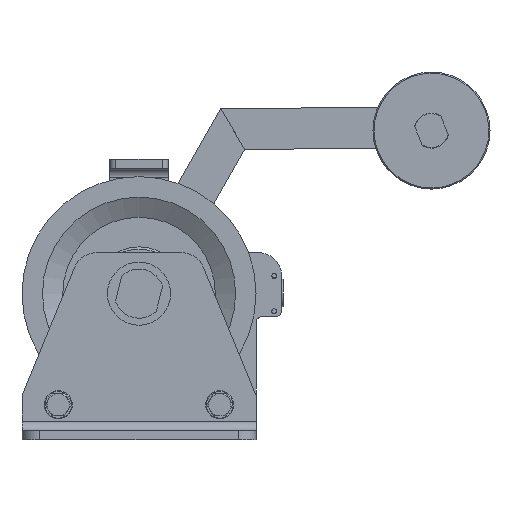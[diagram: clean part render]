
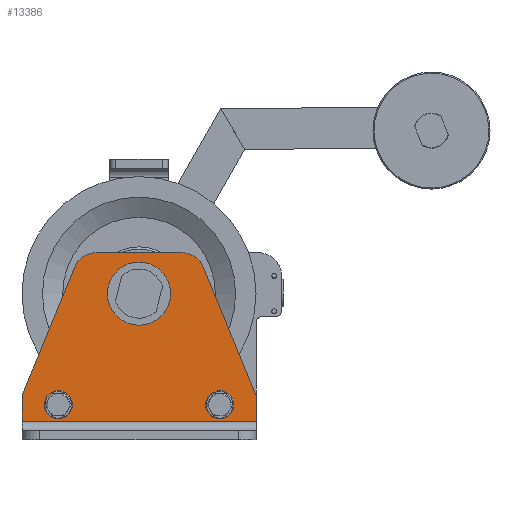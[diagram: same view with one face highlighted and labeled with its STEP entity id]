
A CAD part, front view. The second image highlights one B-rep face of the part: STEP entity #13386.
In plain terms, the highlighted planar face has unit normal (0, -1, 0) as drawn and (0, 0, 1) by its records, which use the part's own axes.
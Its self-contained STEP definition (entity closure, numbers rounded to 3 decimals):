
#907=FACE_BOUND('',#5243,.T.);
#908=FACE_BOUND('',#5244,.T.);
#909=FACE_BOUND('',#5245,.T.);
#1364=PLANE('',#15331);
#2568=LINE('',#23768,#3601);
#2571=LINE('',#23774,#3604);
#2579=LINE('',#23808,#3612);
#2583=LINE('',#23817,#3616);
#2586=LINE('',#23824,#3619);
#2587=LINE('',#23826,#3620);
#3601=VECTOR('',#19271,10.);
#3604=VECTOR('',#19276,10.);
#3612=VECTOR('',#19310,10.);
#3616=VECTOR('',#19320,10.);
#3619=VECTOR('',#19329,10.);
#3620=VECTOR('',#19332,10.);
#4415=FACE_OUTER_BOUND('',#5242,.T.);
#5242=EDGE_LOOP('',(#12644,#12645,#12646,#12647,#12648,#12649,#12650,#12651));
#5243=EDGE_LOOP('',(#12652));
#5244=EDGE_LOOP('',(#12653));
#5245=EDGE_LOOP('',(#12654));
#5926=CIRCLE('',#15318,10.);
#5927=CIRCLE('',#15320,10.);
#5928=CIRCLE('',#15322,15.);
#5929=CIRCLE('',#15325,20.);
#5930=CIRCLE('',#15328,20.);
#7112=VERTEX_POINT('',#23759);
#7113=VERTEX_POINT('',#23763);
#7115=VERTEX_POINT('',#23772);
#7124=VERTEX_POINT('',#23794);
#7125=VERTEX_POINT('',#23798);
#7126=VERTEX_POINT('',#23802);
#7127=VERTEX_POINT('',#23806);
#7128=VERTEX_POINT('',#23807);
#7129=VERTEX_POINT('',#23812);
#7130=VERTEX_POINT('',#23816);
#7131=VERTEX_POINT('',#23820);
#8943=EDGE_CURVE('',#7112,#7113,#2568,.T.);
#8946=EDGE_CURVE('',#7115,#7113,#2571,.T.);
#8957=EDGE_CURVE('',#7124,#7124,#5926,.T.);
#8959=EDGE_CURVE('',#7125,#7125,#5927,.T.);
#8961=EDGE_CURVE('',#7126,#7126,#5928,.T.);
#8962=EDGE_CURVE('',#7127,#7128,#2579,.T.);
#8965=EDGE_CURVE('',#7128,#7129,#5929,.T.);
#8967=EDGE_CURVE('',#7129,#7130,#2583,.T.);
#8969=EDGE_CURVE('',#7130,#7131,#5930,.T.);
#8971=EDGE_CURVE('',#7131,#7115,#2586,.T.);
#8972=EDGE_CURVE('',#7112,#7127,#2587,.T.);
#12644=ORIENTED_EDGE('',*,*,#8943,.T.);
#12645=ORIENTED_EDGE('',*,*,#8946,.F.);
#12646=ORIENTED_EDGE('',*,*,#8971,.F.);
#12647=ORIENTED_EDGE('',*,*,#8969,.F.);
#12648=ORIENTED_EDGE('',*,*,#8967,.F.);
#12649=ORIENTED_EDGE('',*,*,#8965,.F.);
#12650=ORIENTED_EDGE('',*,*,#8962,.F.);
#12651=ORIENTED_EDGE('',*,*,#8972,.F.);
#12652=ORIENTED_EDGE('',*,*,#8957,.T.);
#12653=ORIENTED_EDGE('',*,*,#8959,.T.);
#12654=ORIENTED_EDGE('',*,*,#8961,.T.);
#13386=ADVANCED_FACE('',(#4415,#907,#908,#909),#1364,.T.);
#15318=AXIS2_PLACEMENT_3D('',#23796,#19296,#19297);
#15320=AXIS2_PLACEMENT_3D('',#23800,#19301,#19302);
#15322=AXIS2_PLACEMENT_3D('',#23804,#19306,#19307);
#15325=AXIS2_PLACEMENT_3D('',#23813,#19315,#19316);
#15328=AXIS2_PLACEMENT_3D('',#23821,#19324,#19325);
#15331=AXIS2_PLACEMENT_3D('',#23827,#19333,#19334);
#19271=DIRECTION('',(1.,0.,0.));
#19276=DIRECTION('',(0.,-1.,0.));
#19296=DIRECTION('center_axis',(0.,0.,-1.));
#19297=DIRECTION('ref_axis',(-1.,0.,0.));
#19301=DIRECTION('center_axis',(0.,0.,-1.));
#19302=DIRECTION('ref_axis',(-1.,0.,0.));
#19306=DIRECTION('center_axis',(0.,0.,-1.));
#19307=DIRECTION('ref_axis',(-1.,0.,0.));
#19310=DIRECTION('',(0.379,0.925,0.));
#19315=DIRECTION('center_axis',(0.,0.,-1.));
#19316=DIRECTION('ref_axis',(0.,1.,0.));
#19320=DIRECTION('',(1.,0.,0.));
#19324=DIRECTION('center_axis',(0.,0.,-1.));
#19325=DIRECTION('ref_axis',(0.925,0.379,0.));
#19329=DIRECTION('',(0.379,-0.925,0.));
#19332=DIRECTION('',(0.,1.,0.));
#19333=DIRECTION('center_axis',(0.,0.,1.));
#19334=DIRECTION('ref_axis',(1.,0.,0.));
#23759=CARTESIAN_POINT('',(-100.,16.,8.));
#23763=CARTESIAN_POINT('',(100.,16.,8.));
#23768=CARTESIAN_POINT('',(50.,16.,8.));
#23772=CARTESIAN_POINT('',(100.,38.,8.));
#23774=CARTESIAN_POINT('',(100.,0.,8.));
#23794=CARTESIAN_POINT('',(79.,30.,8.));
#23796=CARTESIAN_POINT('Origin',(69.,30.,8.));
#23798=CARTESIAN_POINT('',(-59.,30.,8.));
#23800=CARTESIAN_POINT('Origin',(-69.,30.,8.));
#23802=CARTESIAN_POINT('',(15.,125.,8.));
#23804=CARTESIAN_POINT('Origin',(0.,125.,8.));
#23806=CARTESIAN_POINT('',(-100.,38.,8.));
#23807=CARTESIAN_POINT('',(-55.088,147.584,8.));
#23808=CARTESIAN_POINT('',(-55.088,147.584,8.));
#23812=CARTESIAN_POINT('',(-36.582,160.,8.));
#23813=CARTESIAN_POINT('Origin',(-36.582,140.,8.));
#23816=CARTESIAN_POINT('',(36.582,160.,8.));
#23817=CARTESIAN_POINT('',(36.582,160.,8.));
#23820=CARTESIAN_POINT('',(55.088,147.584,8.));
#23821=CARTESIAN_POINT('Origin',(36.582,140.,8.));
#23824=CARTESIAN_POINT('',(100.,38.,8.));
#23826=CARTESIAN_POINT('',(-100.,38.,8.));
#23827=CARTESIAN_POINT('Origin',(0.,67.076,8.));
